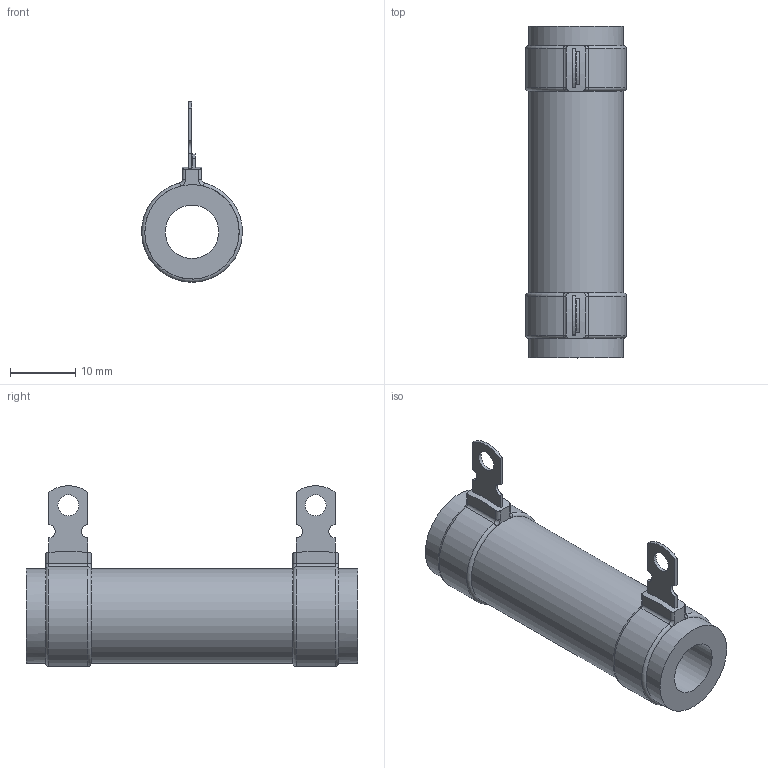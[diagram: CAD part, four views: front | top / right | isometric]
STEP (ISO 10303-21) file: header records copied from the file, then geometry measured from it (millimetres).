
FILE_DESCRIPTION(/* description */ (''),/* implementation_level */ '2;1');
FILE_NAME(/* name */ 'C:\_Vault\Dati\CATALOGO\RCA-RSA\25-1000\CA0025.stp',/* time_stamp */ '2014-01-22T14:25:34+01:00',/* author */ ('stefano'),/* organization */ (''),/* preprocessor_version */ 'ST-DEVELOPER v15.2',/* originating_system */ 'Autodesk Inventor 2014',/* authorisation */ '');
FILE_SCHEMA (('AUTOMOTIVE_DESIGN { 1 0 10303 214 3 1 1 }'));
Length unit declared in the file: millimetre
Products named in the file (1): CA0025
Bounding box: 15.49 x 51 x 27.75 mm (x, y, z)
Volume: 6196 mm3; surface area: 4303.1 mm2
Topology: 1 solids, 1 shells, 77 faces, 184 edges, 114 vertices
Faces by surface type: plane 35, cylinder 30, torus 12
Full cylindrical faces by diameter (mm): 3.2 x2, 8.2 x1, 14.5 x3
Entity records: 2371 total; most frequent: CARTESIAN_POINT 438, DIRECTION 406, ORIENTED_EDGE 352, EDGE_CURVE 176, AXIS2_PLACEMENT_3D 160, VERTEX_POINT 112, EDGE_LOOP 94, LINE 86
